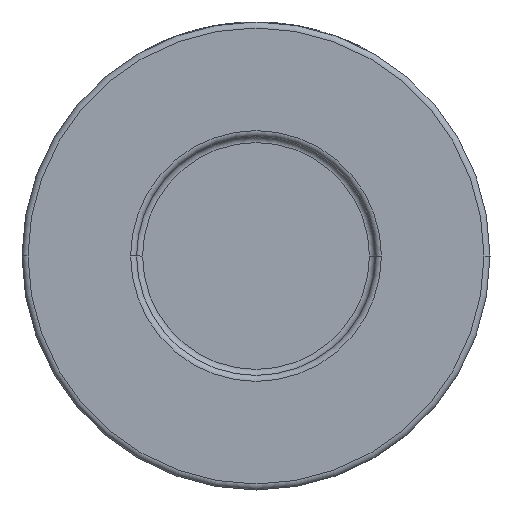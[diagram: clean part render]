
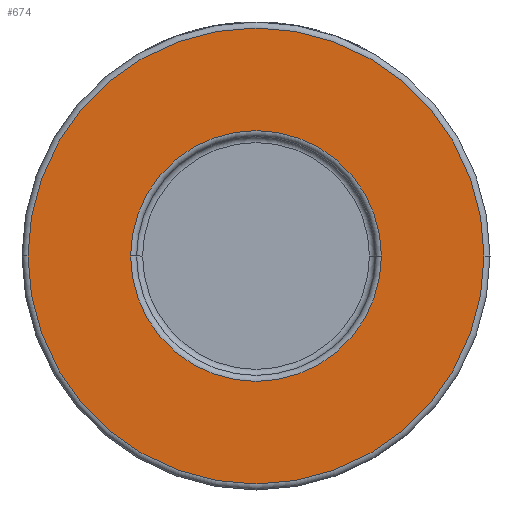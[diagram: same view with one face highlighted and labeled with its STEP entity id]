
A CAD part, front view. The second image highlights one B-rep face of the part: STEP entity #674.
In plain terms, the highlighted planar face has unit normal (0, -1, 0).
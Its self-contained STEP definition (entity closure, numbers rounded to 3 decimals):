
#206 = ORIENTED_EDGE ( 'NONE', *, *, #1882, .T. ) ;
#287 = DIRECTION ( 'NONE',  ( 1., 0., 0. ) ) ;
#383 = EDGE_LOOP ( 'NONE', ( #206, #4457 ) ) ;
#485 = AXIS2_PLACEMENT_3D ( 'NONE', #3411, #1053, #1381 ) ;
#530 = CARTESIAN_POINT ( 'NONE',  ( 38., -26., 0. ) ) ;
#674 = ADVANCED_FACE ( 'NONE', ( #2163, #2186 ), #2555, .T. ) ;
#787 = AXIS2_PLACEMENT_3D ( 'NONE', #1625, #870, #3047 ) ;
#870 = DIRECTION ( 'NONE',  ( 0., 1., 0. ) ) ;
#1053 = DIRECTION ( 'NONE',  ( 0., 1., 0. ) ) ;
#1137 = DIRECTION ( 'NONE',  ( 0., -1., 0. ) ) ;
#1157 = CARTESIAN_POINT ( 'NONE',  ( -38., -26., 0. ) ) ;
#1165 = CIRCLE ( 'NONE', #485, 20.9 ) ;
#1303 = VERTEX_POINT ( 'NONE', #3023 ) ;
#1381 = DIRECTION ( 'NONE',  ( 1., 0., 0. ) ) ;
#1437 = AXIS2_PLACEMENT_3D ( 'NONE', #3946, #1137, #3897 ) ;
#1477 = EDGE_LOOP ( 'NONE', ( #4466, #3667 ) ) ;
#1625 = CARTESIAN_POINT ( 'NONE',  ( 0., -26., 0. ) ) ;
#1686 = AXIS2_PLACEMENT_3D ( 'NONE', #4503, #3349, #2295 ) ;
#1860 = VERTEX_POINT ( 'NONE', #4060 ) ;
#1882 = EDGE_CURVE ( 'NONE', #2405, #2098, #4046, .T. ) ;
#2098 = VERTEX_POINT ( 'NONE', #1157 ) ;
#2163 = FACE_BOUND ( 'NONE', #1477, .T. ) ;
#2186 = FACE_OUTER_BOUND ( 'NONE', #383, .T. ) ;
#2295 = DIRECTION ( 'NONE',  ( 1., 0., 0. ) ) ;
#2345 = CIRCLE ( 'NONE', #2718, 38. ) ;
#2405 = VERTEX_POINT ( 'NONE', #530 ) ;
#2473 = DIRECTION ( 'NONE',  ( 0., -1., 0. ) ) ;
#2555 = PLANE ( 'NONE',  #1437 ) ;
#2718 = AXIS2_PLACEMENT_3D ( 'NONE', #4536, #2473, #287 ) ;
#2801 = CIRCLE ( 'NONE', #787, 20.9 ) ;
#3023 = CARTESIAN_POINT ( 'NONE',  ( -20.9, -26., 0. ) ) ;
#3047 = DIRECTION ( 'NONE',  ( 1., 0., 0. ) ) ;
#3349 = DIRECTION ( 'NONE',  ( 0., -1., 0. ) ) ;
#3411 = CARTESIAN_POINT ( 'NONE',  ( 0., -26., 0. ) ) ;
#3667 = ORIENTED_EDGE ( 'NONE', *, *, #4108, .T. ) ;
#3897 = DIRECTION ( 'NONE',  ( 1., 0., 0. ) ) ;
#3946 = CARTESIAN_POINT ( 'NONE',  ( 39., -26., 0. ) ) ;
#4046 = CIRCLE ( 'NONE', #1686, 38. ) ;
#4060 = CARTESIAN_POINT ( 'NONE',  ( 20.9, -26., 0. ) ) ;
#4108 = EDGE_CURVE ( 'NONE', #1303, #1860, #2801, .T. ) ;
#4454 = EDGE_CURVE ( 'NONE', #1860, #1303, #1165, .T. ) ;
#4457 = ORIENTED_EDGE ( 'NONE', *, *, #4468, .T. ) ;
#4466 = ORIENTED_EDGE ( 'NONE', *, *, #4454, .T. ) ;
#4468 = EDGE_CURVE ( 'NONE', #2098, #2405, #2345, .T. ) ;
#4503 = CARTESIAN_POINT ( 'NONE',  ( 0., -26., 0. ) ) ;
#4536 = CARTESIAN_POINT ( 'NONE',  ( 0., -26., 0. ) ) ;
